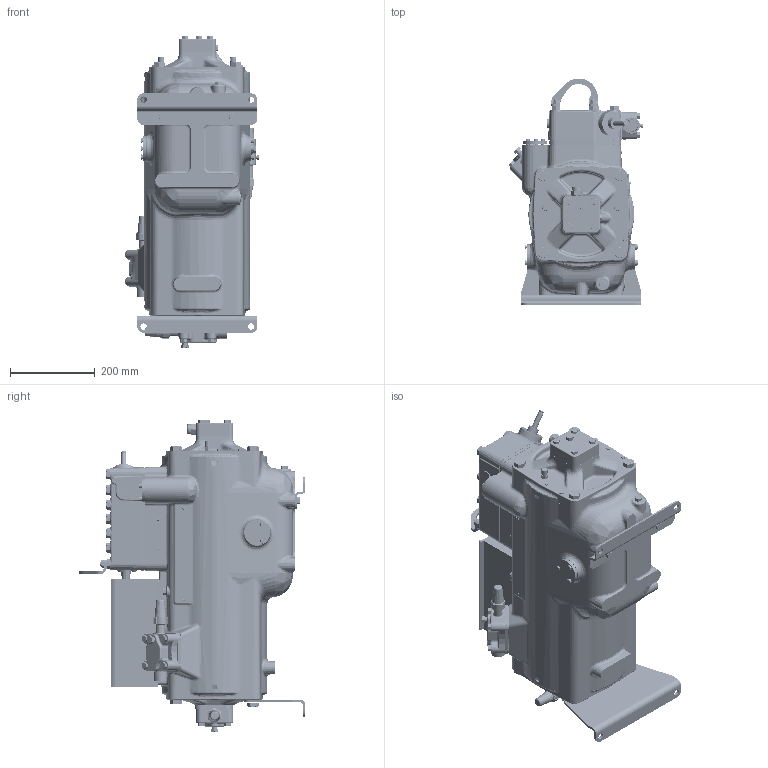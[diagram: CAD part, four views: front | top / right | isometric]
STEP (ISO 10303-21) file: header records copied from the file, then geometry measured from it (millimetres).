
FILE_DESCRIPTION((''),'2;1');
FILE_NAME('3MAEJ10EA210D_ASM','2018-02-15T',('cac0517'),('CARRIER_CORP'),'CREO PARAMETRIC BY PTC INC, 2016380','CREO PARAMETRIC BY PTC INC, 2016380','');
FILE_SCHEMA(('CONFIG_CONTROL_DESIGN'));
Products named in the file (17): 3MAEJ10EA210C; 2AMB000512; 1AMB000502; 05GA502142; 05GA501762; AA06GR230; 6D68-1131; 06EA502573; AA06GR292; 06DA504163; 06DA504253; AA06GS199; EN07EA033; EN07AA284; 1AMB000507; 06DA509571; 3MAEJ10EA210D_ASM
Assembly tree (48 placements, depth 2):
  3MAEJ10EA210D_ASM
    3MAEJ10EA210C
    2AMB000512
    1AMB000502
    05GA502142
    05GA501762  x5
    AA06GR230  x18
    6D68-1131  x2
    06EA502573  x2
    AA06GR292  x8
    06DA504163
    06DA504253
    AA06GS199  x2
    EN07EA033  x2
    EN07AA284
    1AMB000507
    06DA509571
Bounding box: 318.43 x 535.8 x 736.29 mm (x, y, z)
Volume: 47577374.8 mm3; surface area: 1542456.1 mm2
Topology: 60 solids, 67 shells, 5413 faces, 13095 edges, 8142 vertices
Faces by surface type: plane 2412, cylinder 1489, cone 549, bspline 529, torus 353, sphere 60, revolution 19, extrusion 2
Entity records: 202267 total; most frequent: CARTESIAN_POINT 98081, ORIENTED_EDGE 22198, DIRECTION 20428, EDGE_CURVE 11099, AXIS2_PLACEMENT_3D 7487, VERTEX_POINT 6967, VECTOR 5435, LINE 5433
